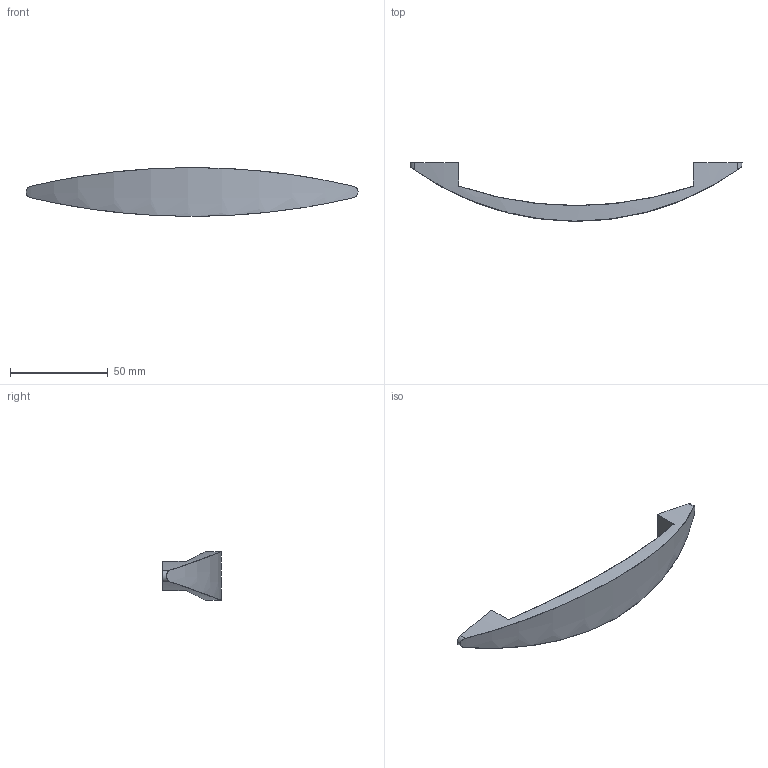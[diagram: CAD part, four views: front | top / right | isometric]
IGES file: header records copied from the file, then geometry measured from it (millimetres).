
Start section: Data from Parasolid IGES Translator 15.0.47, Copyright(c) 2006 Siemens P LM Software. All Rights Reserved.
Global section: file name: 9113679.igs; native system:  By UGS Corp.; preprocessor: XPlus GENERIC/IGES 3.0; author: Noname; organization: Noname; date: 20140122.153331; units: millimetre
Bounding box: 170 x 30 x 25 mm (x, y, z)
Surface area: 9673.2 mm2 (no closed solid volume)
Topology: 0 solids, 0 shells, 15 faces, 66 edges, 64 vertices
Faces by surface type: revolution 9, extrusion 6
